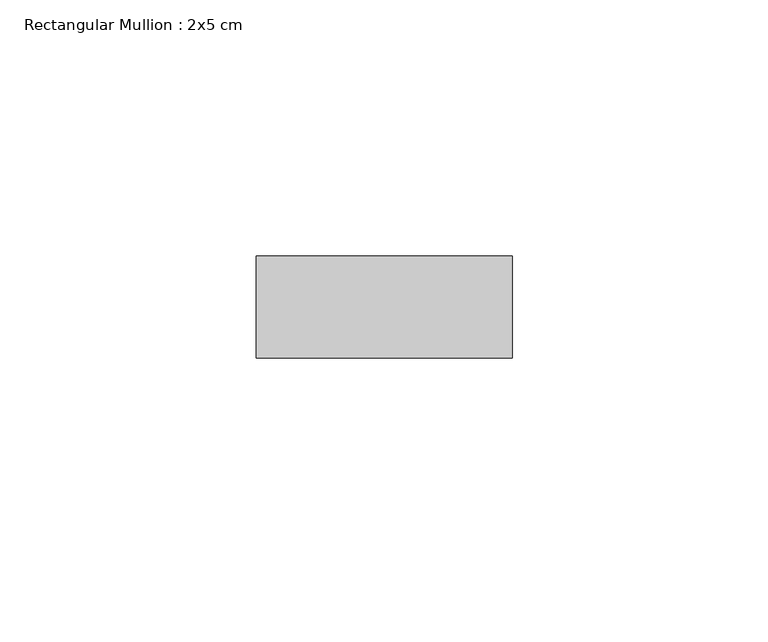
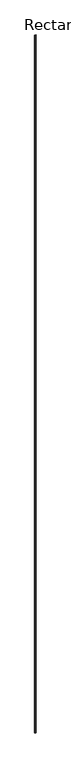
"""IFC4 building model written with IfcOpenShell, lengths in millimetres: member geometry, Rectangular Mullion : 2x5 cm."""

from ifc_helpers import new_model, si_unit, frame, origin, place, context, project, spatial, polyline, outline, extrude, source, transform, mapped, element, save


def rectangular_mullion_2x5_cm_ca32c75d(model_context):
    return source(origin(), model_context, "Body", "SweptSolid", [
        extrude(outline(polyline([(50.0, 20.0), (50.0, 0.0), (0.0, 0.0), (0.0, 20.0), (50.0, 20.0)])), frame((0.0, 0.0, -30962.1288433), z_axis=(0.0, 0.0, 1.0), x_axis=(1.0, 0.0, 0.0)), (0.0, 0.0, 1.0), 30962.1288433),
    ])


if __name__ == "__main__":
    model = new_model("IFC4")
    model_context = context("Model", 3, world=origin())
    ifc_project = project(units=[si_unit("LENGTHUNIT", "METRE", prefix="MILLI")], contexts=[model_context])
    site = spatial("IfcSite", under=ifc_project)
    building = spatial("IfcBuilding", under=site)
    placement = place(None, origin())
    rectangular_mullion_2x5_cm_shape = rectangular_mullion_2x5_cm_ca32c75d(model_context)
    element("IfcMember", 1, ObjectType="Rectangular Mullion : 2x5 cm", at=placement, inside=building, context=model_context, shape_type="MappedRepresentation", body=[
        mapped(rectangular_mullion_2x5_cm_shape, transform((0.0, 0.0, 0.0), x_axis=(1.0, 0.0, 0.0), y_axis=(0.0, 1.0, 0.0), z_axis=(0.0, 0.0, 1.0))),
    ])
    save(model, "model.ifc")
